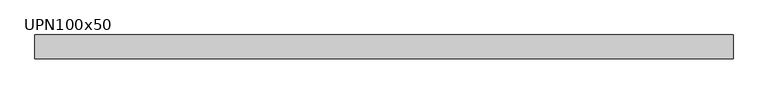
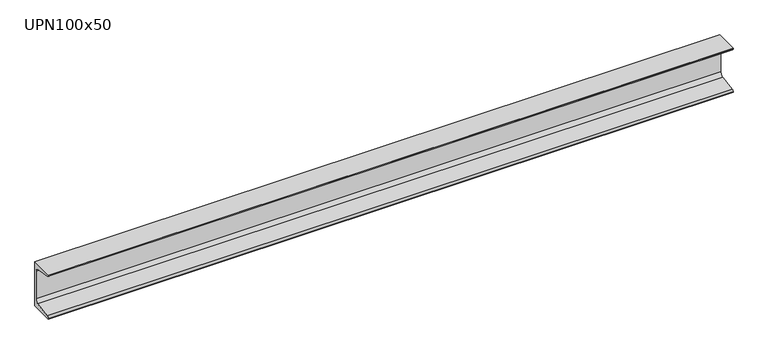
"""IFC4 building model written with IfcOpenShell, lengths in millimetres: beam geometry, M_MC Shapes : UPN100x50."""

from ifc_helpers import new_model, si_unit, point, frame, frame_2d, origin, place, context, project, spatial, polyline, circle_curve, trimmed, segment, composite_curve, outline, extrude, source, transform, mapped, element, save


def upn100x50_d5197bc7(model_context):
    return source(origin(), model_context, "Body", "SweptSolid", [
        extrude(outline(composite_curve([segment(polyline([(10.9, 50.0), (10.9, -50.0), (-39.1, -50.0), (-39.1, -49.0253247)]), True, "CONTINUOUS"), segment(trimmed(circle_curve(frame_2d((-35.15, -49.0253247)), 3.95), [point((-39.1, -49.0253247))], [point((-35.7993773, -45.1290689))], False, "CARTESIAN"), True, "CONTINUOUS"), segment(polyline([(-35.7993773, -45.1290689), (-0.2512455, -39.2043685)]), True, "CONTINUOUS"), segment(trimmed(circle_curve(frame_2d((-1.55, -31.4118569)), 7.9), [point((-0.2512455, -39.2043685))], [point((6.35, -31.4118569))], True, "CARTESIAN"), True, "CONTINUOUS"), segment(polyline([(6.35, -31.4118569), (6.35, 31.4118569)]), True, "CONTINUOUS"), segment(trimmed(circle_curve(frame_2d((-1.55, 31.4118569)), 7.9), [point((6.35, 31.4118569))], [point((-0.2512455, 39.2043685))], True, "CARTESIAN"), True, "CONTINUOUS"), segment(polyline([(-0.2512455, 39.2043685), (-35.7993773, 45.1290689)]), True, "CONTINUOUS"), segment(trimmed(circle_curve(frame_2d((-35.15, 49.0253247)), 3.95), [point((-35.7993773, 45.1290689))], [point((-39.1, 49.0253247))], False, "CARTESIAN"), True, "CONTINUOUS"), segment(polyline([(-39.1, 49.0253247), (-39.1, 50.0), (10.9, 50.0)]), True, "CONTINUOUS")], self_intersect=False)), frame((-735.8, 0.0, 0.0), z_axis=(1.0, 0.0, 0.0), x_axis=(0.0, 1.0, 0.0)), (0.0, 0.0, 1.0), 1471.6),
    ])


if __name__ == "__main__":
    model = new_model("IFC4")
    model_context = context("Model", 3, world=origin())
    ifc_project = project(units=[si_unit("LENGTHUNIT", "METRE", prefix="MILLI")], contexts=[model_context])
    site = spatial("IfcSite", under=ifc_project)
    building = spatial("IfcBuilding", under=site)
    placement = place(None, origin())
    upn100x50_shape = upn100x50_d5197bc7(model_context)
    element("IfcBeam", 1, ObjectType="M_MC Shapes : UPN100x50", at=placement, inside=building, context=model_context, shape_type="MappedRepresentation", body=[
        mapped(upn100x50_shape, transform((0.0, 0.0, 0.0), x_axis=(1.0, 0.0, 0.0), y_axis=(0.0, 1.0, 0.0), z_axis=(0.0, 0.0, 1.0))),
    ])
    save(model, "model.ifc")
